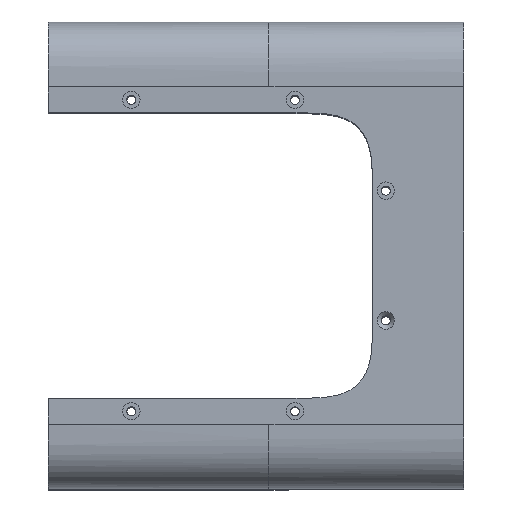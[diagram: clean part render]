
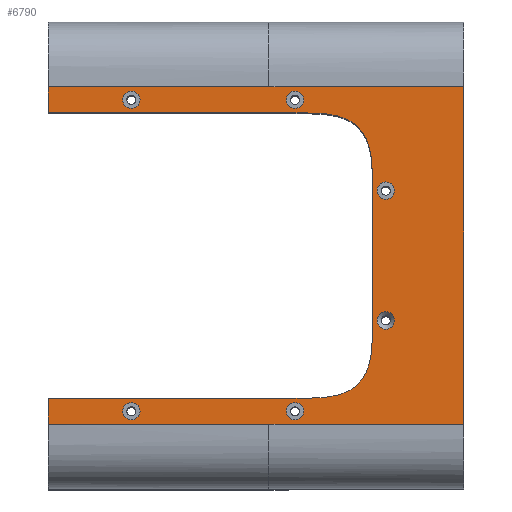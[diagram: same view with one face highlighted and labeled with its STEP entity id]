
A CAD part, top view. The second image highlights one B-rep face of the part: STEP entity #6790.
In plain terms, the highlighted planar face has unit normal (0, 0, 1).
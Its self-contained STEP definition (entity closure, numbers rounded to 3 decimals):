
#726=FACE_BOUND('',#2340,.T.);
#727=FACE_BOUND('',#2341,.T.);
#728=FACE_BOUND('',#2342,.T.);
#729=FACE_BOUND('',#2343,.T.);
#730=FACE_BOUND('',#2344,.T.);
#731=FACE_BOUND('',#2345,.T.);
#760=(
BOUNDED_CURVE()
B_SPLINE_CURVE(5,(#18463,#18464,#18465,#18466,#18467,#18468),
 .UNSPECIFIED.,.F.,.F.)
B_SPLINE_CURVE_WITH_KNOTS((6,6),(0.,1.),.UNSPECIFIED.)
CURVE()
GEOMETRIC_REPRESENTATION_ITEM()
RATIONAL_B_SPLINE_CURVE((1.,1.,1.,1.,1.,1.))
REPRESENTATION_ITEM('')
);
#779=(
BOUNDED_CURVE()
B_SPLINE_CURVE(5,(#38197,#38198,#38199,#38200,#38201,#38202),
 .UNSPECIFIED.,.F.,.F.)
B_SPLINE_CURVE_WITH_KNOTS((6,6),(0.,1.),.UNSPECIFIED.)
CURVE()
GEOMETRIC_REPRESENTATION_ITEM()
RATIONAL_B_SPLINE_CURVE((1.,1.,1.,1.,1.,1.))
REPRESENTATION_ITEM('')
);
#839=LINE('',#16475,#1237);
#845=LINE('',#16491,#1243);
#881=LINE('',#18481,#1279);
#883=LINE('',#18515,#1281);
#1006=LINE('',#36153,#1404);
#1010=LINE('',#36180,#1408);
#1055=LINE('',#38206,#1453);
#1057=LINE('',#38228,#1455);
#1058=LINE('',#38231,#1456);
#1059=LINE('',#38232,#1457);
#1237=VECTOR('',#7554,10.);
#1243=VECTOR('',#7566,10.);
#1279=VECTOR('',#7640,10.);
#1281=VECTOR('',#7642,10.);
#1404=VECTOR('',#8025,10.);
#1408=VECTOR('',#8033,10.);
#1453=VECTOR('',#8126,10.);
#1455=VECTOR('',#8130,10.);
#1456=VECTOR('',#8133,10.);
#1457=VECTOR('',#8134,10.);
#1904=FACE_OUTER_BOUND('',#2339,.T.);
#2339=EDGE_LOOP('',(#5677,#5678,#5679,#5680,#5681,#5682,#5683,#5684,#5685,
#5686,#5687,#5688));
#2340=EDGE_LOOP('',(#5689));
#2341=EDGE_LOOP('',(#5690));
#2342=EDGE_LOOP('',(#5691));
#2343=EDGE_LOOP('',(#5692));
#2344=EDGE_LOOP('',(#5693));
#2345=EDGE_LOOP('',(#5694));
#2543=CIRCLE('',#7020,3.35);
#2545=CIRCLE('',#7023,3.35);
#2547=CIRCLE('',#7026,3.35);
#2611=CIRCLE('',#7172,3.35);
#2613=CIRCLE('',#7175,3.35);
#2615=CIRCLE('',#7178,3.35);
#2747=VERTEX_POINT('',#15797);
#2749=VERTEX_POINT('',#15803);
#2751=VERTEX_POINT('',#15809);
#2789=VERTEX_POINT('',#16441);
#2790=VERTEX_POINT('',#16458);
#2797=VERTEX_POINT('',#16489);
#2832=VERTEX_POINT('',#18461);
#2833=VERTEX_POINT('',#18462);
#2837=VERTEX_POINT('',#18514);
#3025=VERTEX_POINT('',#35491);
#3027=VERTEX_POINT('',#35497);
#3029=VERTEX_POINT('',#35503);
#3067=VERTEX_POINT('',#36135);
#3068=VERTEX_POINT('',#36152);
#3073=VERTEX_POINT('',#36179);
#3112=VERTEX_POINT('',#38195);
#3113=VERTEX_POINT('',#38196);
#3115=VERTEX_POINT('',#38230);
#3425=EDGE_CURVE('',#2747,#2747,#2543,.T.);
#3428=EDGE_CURVE('',#2749,#2749,#2545,.T.);
#3431=EDGE_CURVE('',#2751,#2751,#2547,.T.);
#3490=EDGE_CURVE('',#2789,#2790,#839,.T.);
#3498=EDGE_CURVE('',#2797,#2790,#845,.T.);
#3561=EDGE_CURVE('',#2832,#2833,#760,.T.);
#3566=EDGE_CURVE('',#2797,#2833,#881,.T.);
#3569=EDGE_CURVE('',#2837,#2789,#883,.T.);
#3864=EDGE_CURVE('',#3025,#3025,#2611,.T.);
#3867=EDGE_CURVE('',#3027,#3027,#2613,.T.);
#3870=EDGE_CURVE('',#3029,#3029,#2615,.T.);
#3928=EDGE_CURVE('',#3067,#3068,#1006,.T.);
#3934=EDGE_CURVE('',#3073,#3068,#1010,.T.);
#4009=EDGE_CURVE('',#3112,#3113,#779,.T.);
#4012=EDGE_CURVE('',#3073,#3113,#1055,.T.);
#4015=EDGE_CURVE('',#3112,#2832,#1057,.T.);
#4016=EDGE_CURVE('',#3115,#3067,#1058,.T.);
#4017=EDGE_CURVE('',#2837,#3115,#1059,.T.);
#5677=ORIENTED_EDGE('',*,*,#4012,.F.);
#5678=ORIENTED_EDGE('',*,*,#3934,.T.);
#5679=ORIENTED_EDGE('',*,*,#3928,.F.);
#5680=ORIENTED_EDGE('',*,*,#4016,.F.);
#5681=ORIENTED_EDGE('',*,*,#4017,.F.);
#5682=ORIENTED_EDGE('',*,*,#3569,.T.);
#5683=ORIENTED_EDGE('',*,*,#3490,.T.);
#5684=ORIENTED_EDGE('',*,*,#3498,.F.);
#5685=ORIENTED_EDGE('',*,*,#3566,.T.);
#5686=ORIENTED_EDGE('',*,*,#3561,.F.);
#5687=ORIENTED_EDGE('',*,*,#4015,.F.);
#5688=ORIENTED_EDGE('',*,*,#4009,.T.);
#5689=ORIENTED_EDGE('',*,*,#3431,.T.);
#5690=ORIENTED_EDGE('',*,*,#3428,.T.);
#5691=ORIENTED_EDGE('',*,*,#3425,.T.);
#5692=ORIENTED_EDGE('',*,*,#3864,.F.);
#5693=ORIENTED_EDGE('',*,*,#3867,.F.);
#5694=ORIENTED_EDGE('',*,*,#3870,.F.);
#6489=PLANE('',#7223);
#6790=ADVANCED_FACE('',(#1904,#726,#727,#728,#729,#730,#731),#6489,.F.);
#7020=AXIS2_PLACEMENT_3D('',#15798,#7483,#7484);
#7023=AXIS2_PLACEMENT_3D('',#15804,#7490,#7491);
#7026=AXIS2_PLACEMENT_3D('',#15810,#7497,#7498);
#7172=AXIS2_PLACEMENT_3D('',#35492,#7954,#7955);
#7175=AXIS2_PLACEMENT_3D('',#35498,#7961,#7962);
#7178=AXIS2_PLACEMENT_3D('',#35504,#7968,#7969);
#7223=AXIS2_PLACEMENT_3D('',#38229,#8131,#8132);
#7483=DIRECTION('center_axis',(0.,0.,
-1.));
#7484=DIRECTION('ref_axis',(-1.,0.,0.));
#7490=DIRECTION('center_axis',(0.,0.,
-1.));
#7491=DIRECTION('ref_axis',(-1.,0.,0.));
#7497=DIRECTION('center_axis',(0.,0.,
-1.));
#7498=DIRECTION('ref_axis',(-1.,0.,0.));
#7554=DIRECTION('',(-1.,0.,0.));
#7566=DIRECTION('',(0.,1.,0.));
#7640=DIRECTION('',(1.,0.,0.));
#7642=DIRECTION('',(-1.,0.,0.));
#7954=DIRECTION('center_axis',(0.,0.,
1.));
#7955=DIRECTION('ref_axis',(-1.,0.,0.));
#7961=DIRECTION('center_axis',(0.,0.,
1.));
#7962=DIRECTION('ref_axis',(-1.,0.,0.));
#7968=DIRECTION('center_axis',(0.,0.,
1.));
#7969=DIRECTION('ref_axis',(-1.,0.,0.));
#8025=DIRECTION('',(-1.,0.,0.));
#8033=DIRECTION('',(0.,-1.,0.));
#8126=DIRECTION('',(1.,0.,0.));
#8130=DIRECTION('',(0.,1.,0.));
#8131=DIRECTION('center_axis',(0.,0.,
-1.));
#8132=DIRECTION('ref_axis',(0.,-1.,0.));
#8133=DIRECTION('',(-1.,0.,0.));
#8134=DIRECTION('',(0.,-1.,0.));
#15797=CARTESIAN_POINT('',(98.35,60.,116.5));
#15798=CARTESIAN_POINT('Origin',(95.,60.,116.5));
#15803=CARTESIAN_POINT('',(133.35,25.,116.5));
#15804=CARTESIAN_POINT('Origin',(130.,25.,116.5));
#15809=CARTESIAN_POINT('',(35.35,60.,116.5));
#15810=CARTESIAN_POINT('Origin',(32.,60.,116.5));
#16441=CARTESIAN_POINT('',(85.,65.,116.5));
#16458=CARTESIAN_POINT('',(0.,65.,116.5));
#16475=CARTESIAN_POINT('',(85.,65.,116.5));
#16489=CARTESIAN_POINT('',(0.,55.,116.5));
#16491=CARTESIAN_POINT('',(0.,33.75,116.5));
#18461=CARTESIAN_POINT('',(125.,25.,116.5));
#18462=CARTESIAN_POINT('',(95.,55.,116.5));
#18463=CARTESIAN_POINT('Ctrl Pts',(125.,25.,116.5));
#18464=CARTESIAN_POINT('Ctrl Pts',(125.,40.,116.5));
#18465=CARTESIAN_POINT('Ctrl Pts',(125.,47.5,116.5));
#18466=CARTESIAN_POINT('Ctrl Pts',(117.5,55.,116.5));
#18467=CARTESIAN_POINT('Ctrl Pts',(110.,55.,116.5));
#18468=CARTESIAN_POINT('Ctrl Pts',(95.,55.,116.5));
#18481=CARTESIAN_POINT('',(100.,55.,116.5));
#18514=CARTESIAN_POINT('',(160.,65.,116.5));
#18515=CARTESIAN_POINT('',(160.,65.,116.5));
#35491=CARTESIAN_POINT('',(98.35,-60.,116.5));
#35492=CARTESIAN_POINT('Origin',(95.,-60.,116.5));
#35497=CARTESIAN_POINT('',(133.35,-25.,116.5));
#35498=CARTESIAN_POINT('Origin',(130.,-25.,116.5));
#35503=CARTESIAN_POINT('',(35.35,-60.,116.5));
#35504=CARTESIAN_POINT('Origin',(32.,-60.,116.5));
#36135=CARTESIAN_POINT('',(85.,-65.,116.5));
#36152=CARTESIAN_POINT('',(0.,-65.,116.5));
#36153=CARTESIAN_POINT('',(85.,-65.,116.5));
#36179=CARTESIAN_POINT('',(0.,-55.,116.5));
#36180=CARTESIAN_POINT('',(0.,-33.75,116.5));
#38195=CARTESIAN_POINT('',(125.,-25.,116.5));
#38196=CARTESIAN_POINT('',(95.,-55.,116.5));
#38197=CARTESIAN_POINT('Ctrl Pts',(125.,-25.,116.5));
#38198=CARTESIAN_POINT('Ctrl Pts',(125.,-40.,116.5));
#38199=CARTESIAN_POINT('Ctrl Pts',(125.,-47.5,116.5));
#38200=CARTESIAN_POINT('Ctrl Pts',(117.5,-55.,116.5));
#38201=CARTESIAN_POINT('Ctrl Pts',(110.,-55.,116.5));
#38202=CARTESIAN_POINT('Ctrl Pts',(95.,-55.,116.5));
#38206=CARTESIAN_POINT('',(100.,-55.,116.5));
#38228=CARTESIAN_POINT('',(125.,-35.,116.5));
#38229=CARTESIAN_POINT('Origin',(160.,-15.,116.5));
#38230=CARTESIAN_POINT('',(160.,-65.,116.5));
#38231=CARTESIAN_POINT('',(160.,-65.,116.5));
#38232=CARTESIAN_POINT('',(160.,65.,116.5));
